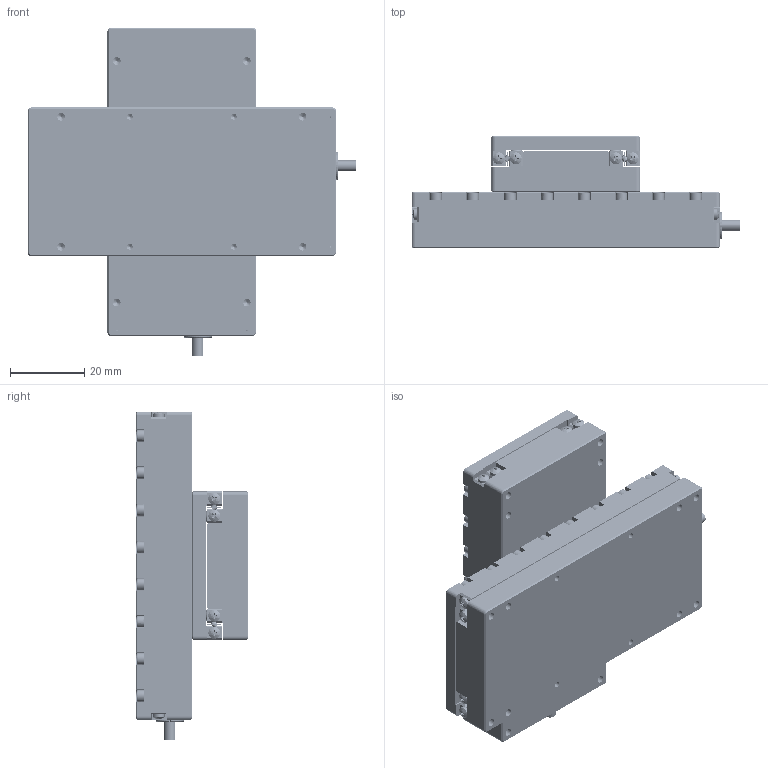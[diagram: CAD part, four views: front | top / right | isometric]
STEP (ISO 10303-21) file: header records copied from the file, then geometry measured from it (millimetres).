
FILE_DESCRIPTION (( 'STEP AP214' ), '1' );
FILE_NAME ('N56.XY50E-B1闭环二维直线压电马达3D图（25.08.01）.STEP', '2026-05-26T05:55:27', ( '微软用户' ), ( '微软中国' ), 'SwSTEP 2.0', 'SolidWorks 2016', '' );
FILE_SCHEMA (( 'AUTOMOTIVE_DESIGN' ));
Length unit declared in the file: millimetre
Products named in the file (1): N56.XY50E-B1闭环二维直线压电马达3D图（25.08.01）
Bounding box: 88.5 x 30 x 88.5 mm (x, y, z)
Volume: 76210.1 mm3; surface area: 60390.1 mm2
Topology: 184 solids, 192 shells, 4316 faces, 10714 edges, 6854 vertices
Faces by surface type: plane 2066, cylinder 1678, cone 412, bspline 160
Entity records: 178915 total; most frequent: CARTESIAN_POINT 25889, DIRECTION 22308, ORIENTED_EDGE 20788, EDGE_CURVE 10394, AXIS2_PLACEMENT_3D 8331, VERTEX_POINT 6852, VECTOR 5646, LINE 5646
